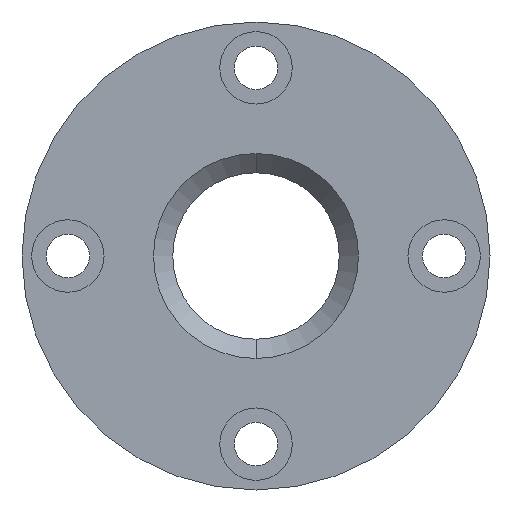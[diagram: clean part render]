
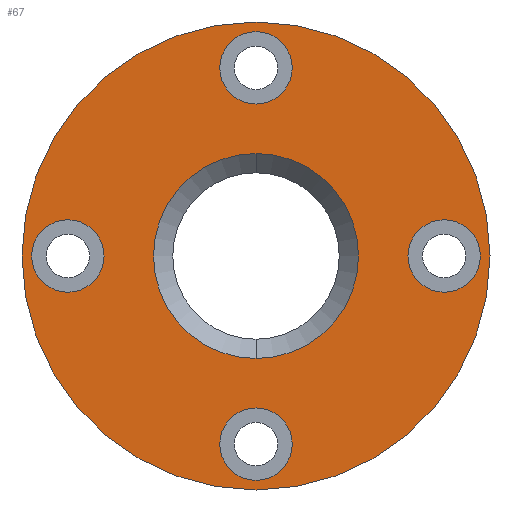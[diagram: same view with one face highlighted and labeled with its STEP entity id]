
A CAD part, front view. The second image highlights one B-rep face of the part: STEP entity #67.
In plain terms, the highlighted planar face has unit normal (0, -1, 0).
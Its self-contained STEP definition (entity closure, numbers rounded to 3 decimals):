
#3 = FACE_BOUND ( 'NONE', #410, .T. ) ;
#7 = CIRCLE ( 'NONE', #587, 7.5 ) ;
#8 = FACE_BOUND ( 'NONE', #478, .T. ) ;
#14 = CARTESIAN_POINT ( 'NONE',  ( 0., 0., 39. ) ) ;
#21 = VERTEX_POINT ( 'NONE', #160 ) ;
#22 = CARTESIAN_POINT ( 'NONE',  ( -39., 0., -7.5 ) ) ;
#28 = CIRCLE ( 'NONE', #231, 7.5 ) ;
#49 = CIRCLE ( 'NONE', #130, 7.5 ) ;
#57 = ORIENTED_EDGE ( 'NONE', *, *, #730, .F. ) ;
#67 = ADVANCED_FACE ( 'NONE', ( #8, #960, #3, #568, #795, #548 ), #177, .F. ) ;
#87 = EDGE_LOOP ( 'NONE', ( #877, #759 ) ) ;
#91 = CARTESIAN_POINT ( 'NONE',  ( 0., 0., 0. ) ) ;
#92 = CIRCLE ( 'NONE', #402, 48.5 ) ;
#106 = CARTESIAN_POINT ( 'NONE',  ( 0., 0., -39. ) ) ;
#112 = CIRCLE ( 'NONE', #691, 7.5 ) ;
#119 = DIRECTION ( 'NONE',  ( 0., -1., 0. ) ) ;
#124 = VERTEX_POINT ( 'NONE', #178 ) ;
#130 = AXIS2_PLACEMENT_3D ( 'NONE', #682, #274, #1002 ) ;
#134 = AXIS2_PLACEMENT_3D ( 'NONE', #106, #556, #872 ) ;
#160 = CARTESIAN_POINT ( 'NONE',  ( 48.5, 0., 0. ) ) ;
#164 = EDGE_CURVE ( 'NONE', #475, #840, #401, .T. ) ;
#177 = PLANE ( 'NONE',  #391 ) ;
#178 = CARTESIAN_POINT ( 'NONE',  ( 0., 0., 31.5 ) ) ;
#181 = VERTEX_POINT ( 'NONE', #22 ) ;
#186 = ORIENTED_EDGE ( 'NONE', *, *, #354, .F. ) ;
#196 = CIRCLE ( 'NONE', #785, 7.5 ) ;
#221 = EDGE_CURVE ( 'NONE', #536, #594, #783, .T. ) ;
#225 = CARTESIAN_POINT ( 'NONE',  ( -39., 0., 0. ) ) ;
#230 = CIRCLE ( 'NONE', #775, 21.25 ) ;
#231 = AXIS2_PLACEMENT_3D ( 'NONE', #440, #669, #450 ) ;
#238 = VERTEX_POINT ( 'NONE', #483 ) ;
#253 = DIRECTION ( 'NONE',  ( 0., 0., -1. ) ) ;
#266 = CARTESIAN_POINT ( 'NONE',  ( 0., 0., 0. ) ) ;
#273 = DIRECTION ( 'NONE',  ( 0., 0., -1. ) ) ;
#274 = DIRECTION ( 'NONE',  ( 0., -1., 0. ) ) ;
#287 = DIRECTION ( 'NONE',  ( 0., 0., -1. ) ) ;
#295 = CARTESIAN_POINT ( 'NONE',  ( 39., 0., 7.5 ) ) ;
#314 = DIRECTION ( 'NONE',  ( -1., 0., 0. ) ) ;
#322 = CARTESIAN_POINT ( 'NONE',  ( 0., 0., 0. ) ) ;
#327 = DIRECTION ( 'NONE',  ( 0., 0., -1. ) ) ;
#328 = DIRECTION ( 'NONE',  ( 0., 1., 0. ) ) ;
#330 = ORIENTED_EDGE ( 'NONE', *, *, #933, .F. ) ;
#335 = CARTESIAN_POINT ( 'NONE',  ( 0., 0., -21.25 ) ) ;
#349 = CARTESIAN_POINT ( 'NONE',  ( 0., 0., -39. ) ) ;
#353 = ORIENTED_EDGE ( 'NONE', *, *, #537, .F. ) ;
#354 = EDGE_CURVE ( 'NONE', #756, #719, #230, .T. ) ;
#364 = CARTESIAN_POINT ( 'NONE',  ( 0., 0., 0. ) ) ;
#384 = CARTESIAN_POINT ( 'NONE',  ( 0., 0., -46.5 ) ) ;
#391 = AXIS2_PLACEMENT_3D ( 'NONE', #322, #328, #314 ) ;
#401 = CIRCLE ( 'NONE', #736, 7.5 ) ;
#402 = AXIS2_PLACEMENT_3D ( 'NONE', #91, #720, #624 ) ;
#410 = EDGE_LOOP ( 'NONE', ( #789, #558 ) ) ;
#411 = EDGE_CURVE ( 'NONE', #238, #124, #49, .T. ) ;
#427 = DIRECTION ( 'NONE',  ( -1., 0., 0. ) ) ;
#440 = CARTESIAN_POINT ( 'NONE',  ( -39., 0., 0. ) ) ;
#447 = AXIS2_PLACEMENT_3D ( 'NONE', #266, #743, #427 ) ;
#449 = VERTEX_POINT ( 'NONE', #764 ) ;
#450 = DIRECTION ( 'NONE',  ( 0., 0., -1. ) ) ;
#468 = ORIENTED_EDGE ( 'NONE', *, *, #164, .F. ) ;
#471 = CIRCLE ( 'NONE', #447, 48.5 ) ;
#475 = VERTEX_POINT ( 'NONE', #528 ) ;
#478 = EDGE_LOOP ( 'NONE', ( #787, #494 ) ) ;
#483 = CARTESIAN_POINT ( 'NONE',  ( 0., 0., 46.5 ) ) ;
#494 = ORIENTED_EDGE ( 'NONE', *, *, #1000, .F. ) ;
#513 = CARTESIAN_POINT ( 'NONE',  ( 0., 0., 0. ) ) ;
#518 = CARTESIAN_POINT ( 'NONE',  ( -48.5, 0., 0. ) ) ;
#528 = CARTESIAN_POINT ( 'NONE',  ( 39., 0., -7.5 ) ) ;
#536 = VERTEX_POINT ( 'NONE', #384 ) ;
#537 = EDGE_CURVE ( 'NONE', #840, #475, #7, .T. ) ;
#548 = FACE_OUTER_BOUND ( 'NONE', #909, .T. ) ;
#552 = CIRCLE ( 'NONE', #134, 7.5 ) ;
#556 = DIRECTION ( 'NONE',  ( 0., -1., 0. ) ) ;
#558 = ORIENTED_EDGE ( 'NONE', *, *, #411, .F. ) ;
#565 = EDGE_LOOP ( 'NONE', ( #186, #57 ) ) ;
#566 = EDGE_LOOP ( 'NONE', ( #468, #353 ) ) ;
#567 = CARTESIAN_POINT ( 'NONE',  ( 0., 0., 21.25 ) ) ;
#568 = FACE_BOUND ( 'NONE', #87, .T. ) ;
#587 = AXIS2_PLACEMENT_3D ( 'NONE', #780, #617, #860 ) ;
#594 = VERTEX_POINT ( 'NONE', #608 ) ;
#608 = CARTESIAN_POINT ( 'NONE',  ( 0., 0., -31.5 ) ) ;
#617 = DIRECTION ( 'NONE',  ( 0., -1., 0. ) ) ;
#622 = DIRECTION ( 'NONE',  ( 0., -1., 0. ) ) ;
#624 = DIRECTION ( 'NONE',  ( -1., 0., 0. ) ) ;
#637 = EDGE_CURVE ( 'NONE', #181, #449, #196, .T. ) ;
#644 = CARTESIAN_POINT ( 'NONE',  ( 39., 0., 0. ) ) ;
#656 = DIRECTION ( 'NONE',  ( 0., 0., -1. ) ) ;
#660 = DIRECTION ( 'NONE',  ( 0., -1., 0. ) ) ;
#669 = DIRECTION ( 'NONE',  ( 0., -1., 0. ) ) ;
#674 = DIRECTION ( 'NONE',  ( 0., -1., 0. ) ) ;
#682 = CARTESIAN_POINT ( 'NONE',  ( 0., 0., 39. ) ) ;
#691 = AXIS2_PLACEMENT_3D ( 'NONE', #14, #959, #253 ) ;
#719 = VERTEX_POINT ( 'NONE', #567 ) ;
#720 = DIRECTION ( 'NONE',  ( 0., 1., 0. ) ) ;
#730 = EDGE_CURVE ( 'NONE', #719, #756, #855, .T. ) ;
#736 = AXIS2_PLACEMENT_3D ( 'NONE', #644, #816, #656 ) ;
#743 = DIRECTION ( 'NONE',  ( 0., 1., 0. ) ) ;
#752 = EDGE_CURVE ( 'NONE', #21, #811, #92, .T. ) ;
#756 = VERTEX_POINT ( 'NONE', #335 ) ;
#757 = AXIS2_PLACEMENT_3D ( 'NONE', #349, #660, #273 ) ;
#759 = ORIENTED_EDGE ( 'NONE', *, *, #844, .F. ) ;
#764 = CARTESIAN_POINT ( 'NONE',  ( -39., 0., 7.5 ) ) ;
#767 = ORIENTED_EDGE ( 'NONE', *, *, #752, .F. ) ;
#775 = AXIS2_PLACEMENT_3D ( 'NONE', #364, #674, #287 ) ;
#779 = EDGE_CURVE ( 'NONE', #124, #238, #112, .T. ) ;
#780 = CARTESIAN_POINT ( 'NONE',  ( 39., 0., 0. ) ) ;
#783 = CIRCLE ( 'NONE', #757, 7.5 ) ;
#785 = AXIS2_PLACEMENT_3D ( 'NONE', #225, #622, #934 ) ;
#787 = ORIENTED_EDGE ( 'NONE', *, *, #221, .F. ) ;
#789 = ORIENTED_EDGE ( 'NONE', *, *, #779, .F. ) ;
#795 = FACE_BOUND ( 'NONE', #565, .T. ) ;
#811 = VERTEX_POINT ( 'NONE', #518 ) ;
#816 = DIRECTION ( 'NONE',  ( 0., -1., 0. ) ) ;
#840 = VERTEX_POINT ( 'NONE', #295 ) ;
#844 = EDGE_CURVE ( 'NONE', #449, #181, #28, .T. ) ;
#855 = CIRCLE ( 'NONE', #1011, 21.25 ) ;
#860 = DIRECTION ( 'NONE',  ( 0., 0., -1. ) ) ;
#872 = DIRECTION ( 'NONE',  ( 0., 0., -1. ) ) ;
#877 = ORIENTED_EDGE ( 'NONE', *, *, #637, .F. ) ;
#909 = EDGE_LOOP ( 'NONE', ( #330, #767 ) ) ;
#933 = EDGE_CURVE ( 'NONE', #811, #21, #471, .T. ) ;
#934 = DIRECTION ( 'NONE',  ( 0., 0., -1. ) ) ;
#959 = DIRECTION ( 'NONE',  ( 0., -1., 0. ) ) ;
#960 = FACE_BOUND ( 'NONE', #566, .T. ) ;
#1000 = EDGE_CURVE ( 'NONE', #594, #536, #552, .T. ) ;
#1002 = DIRECTION ( 'NONE',  ( 0., 0., -1. ) ) ;
#1011 = AXIS2_PLACEMENT_3D ( 'NONE', #513, #119, #327 ) ;
